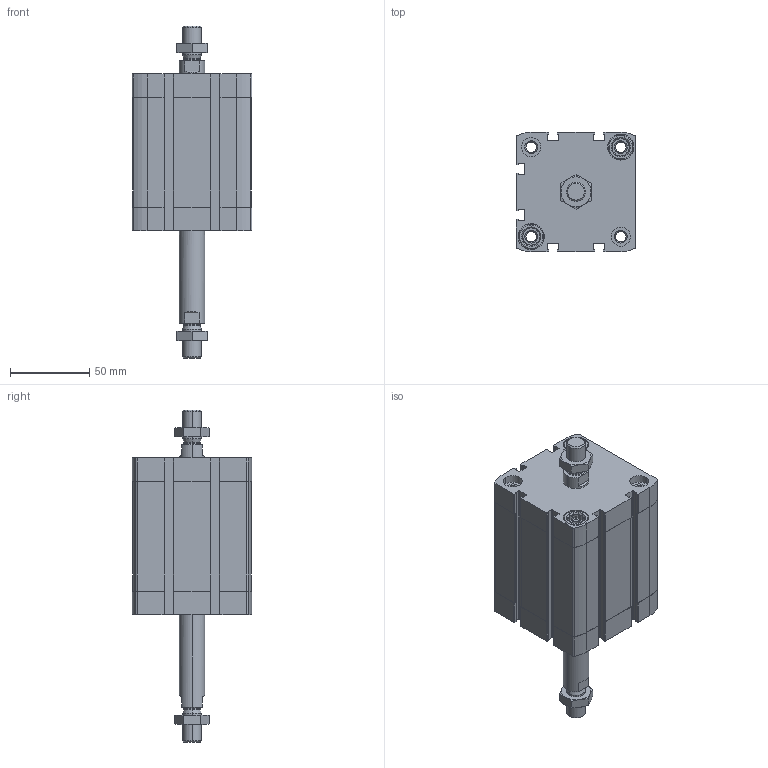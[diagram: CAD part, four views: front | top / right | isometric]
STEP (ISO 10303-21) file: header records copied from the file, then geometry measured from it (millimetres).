
FILE_DESCRIPTION (( 'STEP AP203' ), '1' );
FILE_NAME ('CCN63-50-P.STEP', '2020-06-22T19:02:41', ( '' ), ( '' ), 'SwSTEP 2.0', 'SolidWorks 2019', '' );
FILE_SCHEMA (( 'CONFIG_CONTROL_DESIGN' ));
Length unit declared in the file: millimetre
Products named in the file (1): CCN63-50-P
Bounding box: 75.5 x 75.5 x 209.4 mm (x, y, z)
Volume: 392373.6 mm3; surface area: 100221.2 mm2
Topology: 4 solids, 4 shells, 528 faces, 1394 edges, 906 vertices
Faces by surface type: plane 240, cylinder 220, cone 60, torus 8
Entity records: 17239 total; most frequent: CARTESIAN_POINT 3825, DIRECTION 2846, ORIENTED_EDGE 2788, EDGE_CURVE 1394, AXIS2_PLACEMENT_3D 1047, VERTEX_POINT 906, VECTOR 752, LINE 752
